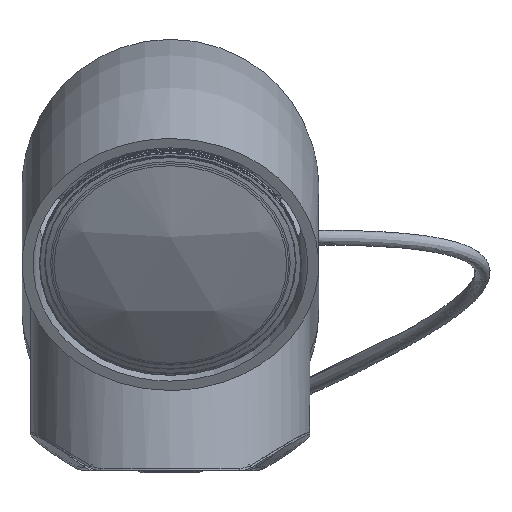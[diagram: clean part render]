
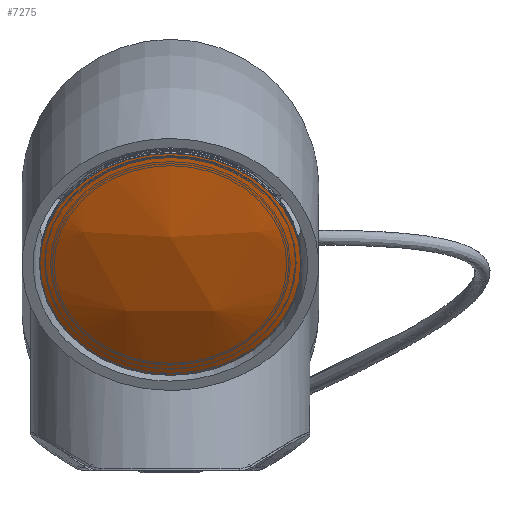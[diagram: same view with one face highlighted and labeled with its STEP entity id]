
A CAD part, top view. The second image highlights one B-rep face of the part: STEP entity #7275.
In plain terms, the highlighted spherical face has radius 148.45 mm.
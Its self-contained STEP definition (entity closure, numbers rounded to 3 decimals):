
#36=SPHERICAL_SURFACE('',#7989,148.45);
#1263=CIRCLE('',#7987,47.538);
#1847=FACE_OUTER_BOUND('',#2352,.T.);
#2352=EDGE_LOOP('',(#5526));
#3240=VERTEX_POINT('',#22247);
#4048=EDGE_CURVE('',#3240,#3240,#1263,.T.);
#5526=ORIENTED_EDGE('',*,*,#4048,.F.);
#7275=ADVANCED_FACE('',(#1847),#36,.T.);
#7987=AXIS2_PLACEMENT_3D('',#22248,#9125,#9126);
#7989=AXIS2_PLACEMENT_3D('',#22250,#9129,#9130);
#9125=DIRECTION('center_axis',(0.,-1.,0.));
#9126=DIRECTION('ref_axis',(1.,0.,0.));
#9129=DIRECTION('center_axis',(0.,0.,1.));
#9130=DIRECTION('ref_axis',(1.,0.,0.));
#22247=CARTESIAN_POINT('',(0.,85.147,-47.538));
#22248=CARTESIAN_POINT('Origin',(0.,85.147,
0.));
#22250=CARTESIAN_POINT('Origin',(0.,-55.486,
0.));
